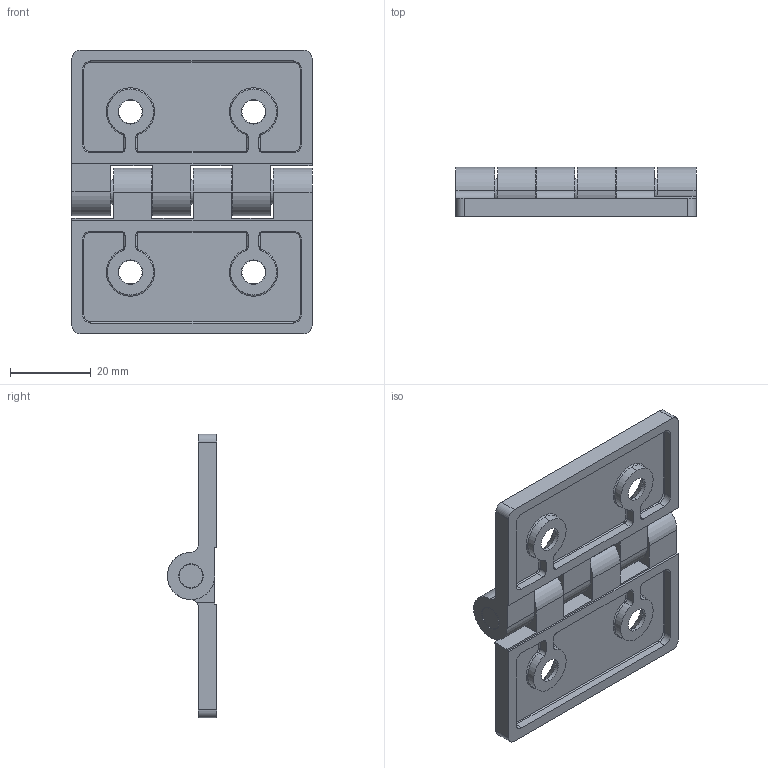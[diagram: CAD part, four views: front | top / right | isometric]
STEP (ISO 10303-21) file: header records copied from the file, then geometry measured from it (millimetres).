
FILE_DESCRIPTION (( 'STEP AP214' ), '1' );
FILE_NAME ('HL055-1.STEP', '2023-06-28T06:26:58', ( 'Windows 蚚誧' ), ( '' ), 'SwSTEP 2.0', 'SolidWorks 2019', '' );
FILE_SCHEMA (( 'AUTOMOTIVE_DESIGN' ));
Length unit declared in the file: millimetre
Products named in the file (1): HL055-1
Bounding box: 59.5 x 12.2 x 70.3 mm (x, y, z)
Volume: 16269.6 mm3; surface area: 12504.3 mm2
Topology: 1 solids, 2 shells, 193 faces, 490 edges, 310 vertices
Faces by surface type: cylinder 96, plane 59, torus 28, cone 10
Entity records: 5936 total; most frequent: DIRECTION 1126, CARTESIAN_POINT 994, ORIENTED_EDGE 980, EDGE_CURVE 490, AXIS2_PLACEMENT_3D 442, VERTEX_POINT 310, CIRCLE 248, LINE 242
